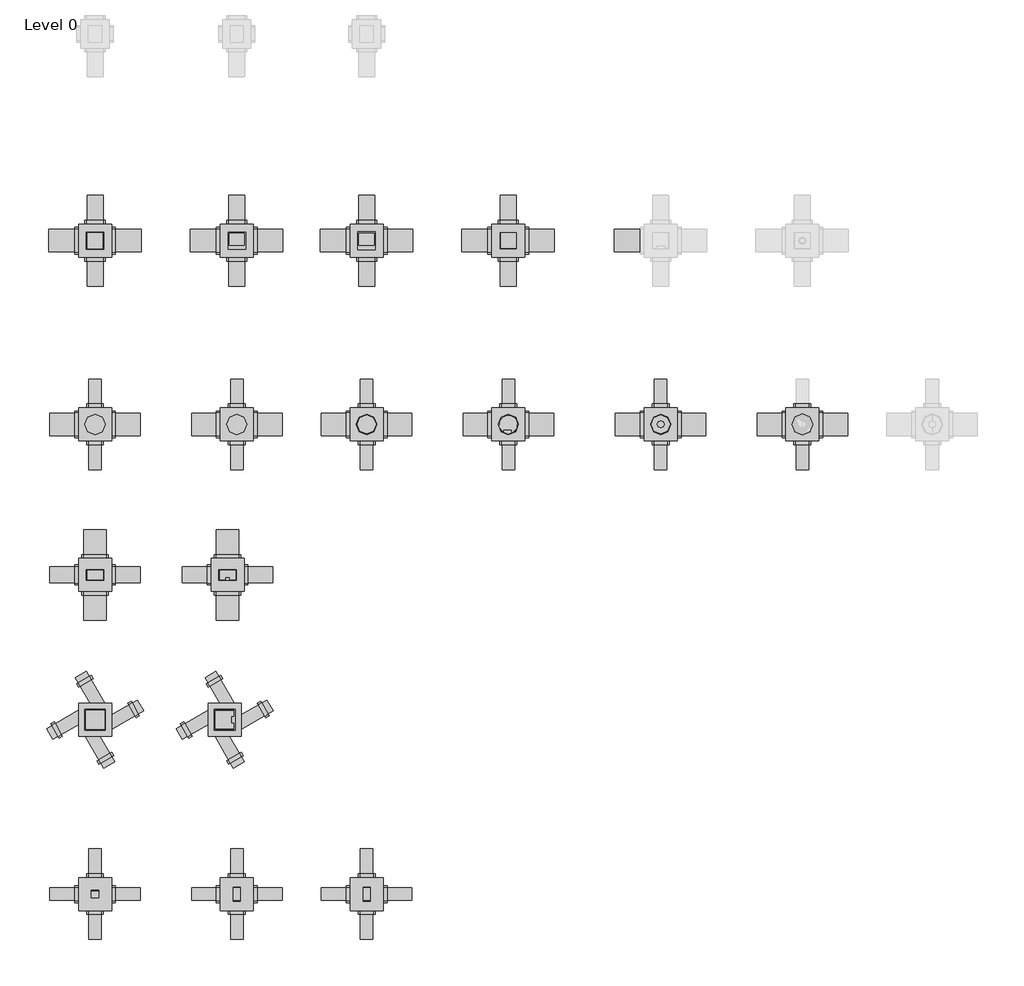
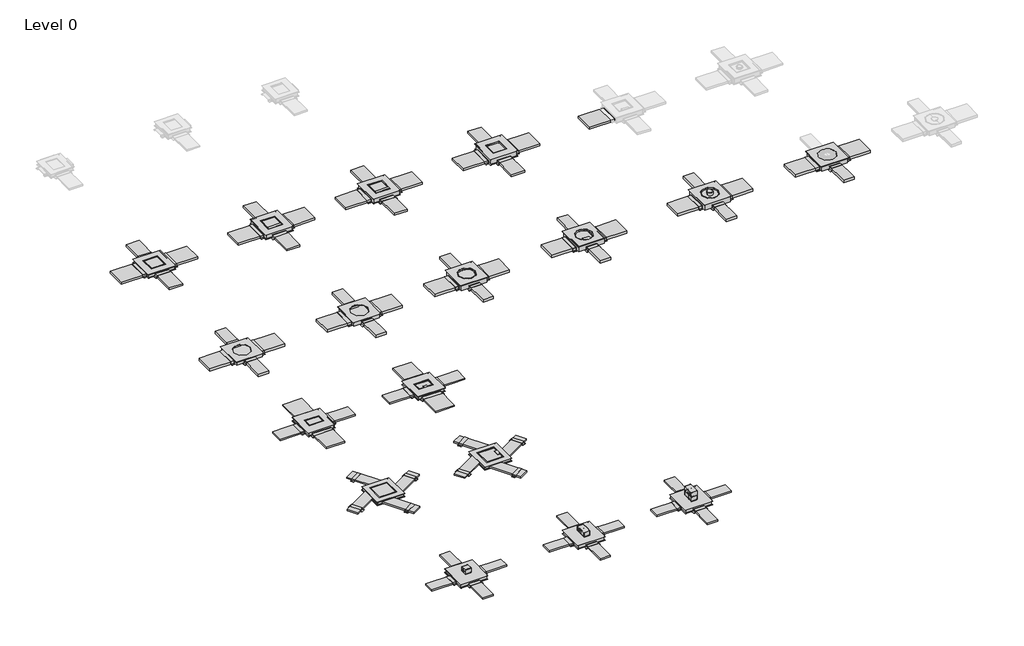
# One storey, part 1 of 2: 68 cable carrier segments, 17 cable carrier fittings, 14 proxies.
"""IFC4 building model written with IfcOpenShell, lengths in millimetres."""

from ifc_helpers import new_model, si_unit, frame, origin, place, context, project, spatial, polyline, outline, extrude, transform, mapped, element, save
from components import electrical_fixtures_d3cc217f, electrical_fixtures_403837cc, electrical_fixtures_8427cab8, electrical_fixtures_bc675c06, color_deep_black_c19cb628, color_deep_black_fa90bbad, color_deep_black_c4cdae59, color_deep_black_142afe5e, color_deep_black_3e0b7094, color_deep_black_f01a6ed9, stainless_steel_cassette_q12_bl_outer_height_28mm_38aa1d54, stainless_steel_cassette_r12_bl_outer_height_28mm_3aa149c4, stainless_steel_cassette_r12_le_outer_height_28mm_2c233eef, stainless_steel_cassette_r12_tm_outer_height_28mm_26a360f3, cable_carrier_fitting_5f74ec3e, cable_carrier_fitting_cb3f23ee, cable_carrier_fitting_f97b21a2, cable_carrier_fitting_74eefb0c, cable_carrier_fitting_8ec82d7f, universal_junction_box_with_bottom_plate_size_3_e0c27931, universal_junction_box_with_bottom_plate_size_3_beba6617, universal_junction_box_with_bottom_plate_size_3_e983a607, universal_junction_box_with_bottom_plate_size_3_fc0b7f47, universal_junction_box_with_bottom_plate_size_3_c41442bd, universal_junction_box_with_bottom_plate_size_3_7e383dc2, universal_junction_box_with_sheet_metal_casing_size_3_1634ce7a

model = new_model("IFC4")

# Units and contexts
model_context = context("Model", 3, world=origin())
ifc_project = project(units=[si_unit("LENGTHUNIT", "METRE", prefix="MILLI")], contexts=[model_context])

# Site, building, storey
site = spatial("IfcSite", under=ifc_project)
building = spatial("IfcBuilding", under=site)
storey = spatial("IfcBuildingStorey", under=building, Name="Level 0", Elevation=0.0)

# Proxies
placement = place(None, origin())
electrical_fixtures_shape = electrical_fixtures_d3cc217f(model_context)
element("IfcBuildingElementProxy", 1, Name="Electrical_Installation_Hager_VE-EE_Pedestal-box-4 : GB pedestal box 4 inst. fields iron gray", ObjectType="Electrical_Installation_Hager_VE-EE_Pedestal-box-4 : GB pedestal box 4 inst. fields iron gray", at=placement, inside=storey, context=model_context, shape_type="MappedRepresentation", body=[
    mapped(electrical_fixtures_shape, transform((-6302.5203768, -11668.1416898, 56.0), x_axis=(1.0, 0.0, 0.0), y_axis=(0.0, 1.0, 0.0), z_axis=(0.0, 0.0, 1.0))),
])
electrical_fixtures_2_shape = electrical_fixtures_403837cc(model_context)
element("IfcBuildingElementProxy", 2, Name="Electrical_Installation_Hager_VE-EE_Pedestal-box-8 : GB pedestal box 8 inst. fields iron gray", ObjectType="Electrical_Installation_Hager_VE-EE_Pedestal-box-8 : GB pedestal box 8 inst. fields iron gray", at=placement, inside=storey, context=model_context, shape_type="MappedRepresentation", body=[
    mapped(electrical_fixtures_2_shape, transform((-4342.5203768, -11668.1416898, 56.0), x_axis=(1.0, 0.0, 0.0), y_axis=(0.0, 1.0, 0.0), z_axis=(0.0, 0.0, 1.0))),
])
electrical_fixtures_3_shape = electrical_fixtures_8427cab8(model_context)
element("IfcBuildingElementProxy", 3, Name="Electrical_Installation_Hager_VE-EE_Service-unit-VQ12-made-of-stainless-steel : Electrical_Installation_Hager_VE-EE_Service-unit-VQ12-made-of-stainless-steel", ObjectType="Electrical_Installation_Hager_VE-EE_Service-unit-VQ12-made-of-stainless-steel : Electrical_Installation_Hager_VE-EE_Service-unit-VQ12-made-of-stainless-steel", at=placement, inside=storey, context=model_context, shape_type="MappedRepresentation", body=[
    mapped(electrical_fixtures_3_shape, transform((-4342.5203768, -1802.7596237, 73.0), x_axis=(1.0, 0.0, 0.0), y_axis=(0.0, 1.0, 0.0), z_axis=(0.0, 0.0, 1.0))),
])
electrical_fixtures_4_shape = electrical_fixtures_bc675c06(model_context)
element("IfcBuildingElementProxy", 4, Name="Electrical_Installation_Hager_VE-EE_Pedestal-box-2 : GB pedestal box 2 inst. fields iron gray", ObjectType="Electrical_Installation_Hager_VE-EE_Pedestal-box-2 : GB pedestal box 2 inst. fields iron gray", at=placement, inside=storey, context=model_context, shape_type="MappedRepresentation", body=[
    mapped(electrical_fixtures_4_shape, transform((-8442.5203768, -11668.1416898, 56.0), x_axis=(1.0, 0.0, 0.0), y_axis=(0.0, 1.0, 0.0), z_axis=(0.0, 0.0, 1.0))),
])
color_deep_black_shape = color_deep_black_c19cb628(model_context)
element("IfcBuildingElementProxy", 5, Name="Electrical_Installation_Hager_VE-EE_Cover-VDQ12 : Color Deep Black", ObjectType="Electrical_Installation_Hager_VE-EE_Cover-VDQ12 : Color Deep Black", at=placement, inside=storey, context=model_context, shape_type="MappedRepresentation", body=[
    mapped(color_deep_black_shape, transform((-8442.5203768, -1802.7596237, 49.0), x_axis=(1.0, 0.0, 0.0), y_axis=(0.0, 1.0, 0.0), z_axis=(0.0, 0.0, 1.0))),
])
color_deep_black_2_shape = color_deep_black_fa90bbad(model_context)
element("IfcBuildingElementProxy", 6, Name="Electrical_Installation_Hager_VE-EE_Service-Unit-VQ12 : Color Deep Black", ObjectType="Electrical_Installation_Hager_VE-EE_Service-Unit-VQ12 : Color Deep Black", at=placement, inside=storey, context=model_context, shape_type="MappedRepresentation", body=[
    mapped(color_deep_black_2_shape, transform((-6302.5203768, -1802.7596237, 66.0), x_axis=(1.0, 0.0, 0.0), y_axis=(0.0, 1.0, 0.0), z_axis=(0.0, 0.0, 1.0))),
])
color_deep_black_3_shape = color_deep_black_c4cdae59(model_context)
element("IfcBuildingElementProxy", 7, Name="Electrical_Installation_Hager_VE-EE_Cover-BDE04 : Color Deep Black", ObjectType="Electrical_Installation_Hager_VE-EE_Cover-BDE04 : Color Deep Black", at=placement, inside=storey, context=model_context, shape_type="MappedRepresentation", body=[
    mapped(color_deep_black_3_shape, transform((-8442.5203768, -6848.9254072, 56.0), x_axis=(1.0, 0.0, 0.0), y_axis=(0.0, 1.0, 0.0), z_axis=(0.0, 0.0, 1.0))),
])
color_deep_black_4_shape = color_deep_black_142afe5e(model_context)
element("IfcBuildingElementProxy", 8, Name="Electrical_Installation_Hager_VE-EE_Cover-KDE04 : Color Deep Black", ObjectType="Electrical_Installation_Hager_VE-EE_Cover-KDE04 : Color Deep Black", at=placement, inside=storey, context=model_context, shape_type="MappedRepresentation", body=[
    mapped(color_deep_black_4_shape, transform((-6442.5203768, -6848.9254072, 56.0), x_axis=(1.0, 0.0, 0.0), y_axis=(0.0, 1.0, 0.0), z_axis=(0.0, 0.0, 1.0))),
])
color_deep_black_5_shape = color_deep_black_3e0b7094(model_context)
element("IfcBuildingElementProxy", 9, Name="Electrical_Installation_Hager_VE-EE_Cover-BDQ08 : Color Deep Black", ObjectType="Electrical_Installation_Hager_VE-EE_Cover-BDQ08 : Color Deep Black", at=placement, inside=storey, context=model_context, shape_type="MappedRepresentation", body=[
    mapped(color_deep_black_5_shape, transform((-8442.5203768, -9035.5969539, 47.0), x_axis=(1.0, 0.0, 0.0), y_axis=(0.0, 1.0, 0.0), z_axis=(0.0, 0.0, 1.0))),
])
color_deep_black_6_shape = color_deep_black_f01a6ed9(model_context)
element("IfcBuildingElementProxy", 10, Name="Electrical_Installation_Hager_VE-EE_Cover-KDQ08 : Color Deep Black", ObjectType="Electrical_Installation_Hager_VE-EE_Cover-KDQ08 : Color Deep Black", at=placement, inside=storey, context=model_context, shape_type="MappedRepresentation", body=[
    mapped(color_deep_black_6_shape, transform((-6485.5203768, -9035.5969539, 39.0), x_axis=(1.0, 0.0, 0.0), y_axis=(0.0, 1.0, 0.0), z_axis=(0.0, 0.0, 1.0))),
])
stainless_steel_cassette_q12_bl_outer_height_28mm_shape = stainless_steel_cassette_q12_bl_outer_height_28mm_38aa1d54(model_context)
element("IfcBuildingElementProxy", 11, Name="Electrical_Installation_Hager_VE-EE_EKQ-Height-adjustable-stainless-steel-cassette-blank-square-for-damp-cleaned-floors : Stainless-steel cassette Q12 BL outer height 28mm", ObjectType="Electrical_Installation_Hager_VE-EE_EKQ-Height-adjustable-stainless-steel-cassette-blank-square-for-damp-cleaned-floors : Stainless-steel cassette Q12 BL outer height 28mm", at=placement, inside=storey, context=model_context, shape_type="MappedRepresentation", body=[
    mapped(stainless_steel_cassette_q12_bl_outer_height_28mm_shape, transform((-2202.5203768, -1802.7596237, 89.0), x_axis=(1.0, 0.0, 0.0), y_axis=(0.0, 1.0, 0.0), z_axis=(0.0, 0.0, 1.0))),
])
stainless_steel_cassette_r12_bl_outer_height_28mm_shape = stainless_steel_cassette_r12_bl_outer_height_28mm_3aa149c4(model_context)
element("IfcBuildingElementProxy", 12, Name="Electrical_Installation_Hager_VE-EE_EKR-Height-adjustable-stainless-steel-cassette-blank-round-for-damp-cleaned-floors : Stainless-steel cassette R12 BL outer height 28mm", ObjectType="Electrical_Installation_Hager_VE-EE_EKR-Height-adjustable-stainless-steel-cassette-blank-round-for-damp-cleaned-floors : Stainless-steel cassette R12 BL outer height 28mm", at=placement, inside=storey, context=model_context, shape_type="MappedRepresentation", body=[
    mapped(stainless_steel_cassette_r12_bl_outer_height_28mm_shape, transform((-4342.5203768, -4575.9376679, 84.0), x_axis=(1.0, 0.0, 0.0), y_axis=(0.0, 1.0, 0.0), z_axis=(0.0, 0.0, 1.0))),
])
stainless_steel_cassette_r12_le_outer_height_28mm_shape = stainless_steel_cassette_r12_le_outer_height_28mm_2c233eef(model_context)
element("IfcBuildingElementProxy", 13, Name="Electrical_Installation_Hager_VE-EE_EKR-Height-adjustable-stainless-steel-cassette-with-square-cable-outlet-for-dry-cleaned-floors : Stainless-steel cassette R12 LE outer height 28mm", ObjectType="Electrical_Installation_Hager_VE-EE_EKR-Height-adjustable-stainless-steel-cassette-with-square-cable-outlet-for-dry-cleaned-floors : Stainless-steel cassette R12 LE outer height 28mm", at=placement, inside=storey, context=model_context, shape_type="MappedRepresentation", body=[
    mapped(stainless_steel_cassette_r12_le_outer_height_28mm_shape, transform((-2202.5203768, -4575.9376679, 84.0), x_axis=(1.0, 0.0, 0.0), y_axis=(0.0, 1.0, 0.0), z_axis=(0.0, 0.0, 1.0))),
])
stainless_steel_cassette_r12_tm_outer_height_28mm_shape = stainless_steel_cassette_r12_tm_outer_height_28mm_26a360f3(model_context)
element("IfcBuildingElementProxy", 14, Name="Electrical_Installation_Hager_VE-EE_EKR-Height-adjustable-stainless-steel-cassette-with-tube-mounting-set-round-for-damp-cleaned-floors : Stainless-steel cassette R12 TM outer height 28mm", ObjectType="Electrical_Installation_Hager_VE-EE_EKR-Height-adjustable-stainless-steel-cassette-with-tube-mounting-set-round-for-damp-cleaned-floors : Stainless-steel cassette R12 TM outer height 28mm", at=placement, inside=storey, context=model_context, shape_type="MappedRepresentation", body=[
    mapped(stainless_steel_cassette_r12_tm_outer_height_28mm_shape, transform((97.4796232, -4575.9376679, 84.0), x_axis=(1.0, 0.0, 0.0), y_axis=(0.0, 1.0, 0.0), z_axis=(0.0, 0.0, 1.0))),
])

# Cable carrier fittings
cable_carrier_fitting_shape = cable_carrier_fitting_5f74ec3e(model_context)
element("IfcCableCarrierFitting", 15, ObjectType="Electrical-Installations_Hager_Universal-Junction-Box-With-Retaining-Tabs-Size-2 : Universal junction box with retaining tabs size 2", at=placement, inside=storey, context=model_context, shape_type="MappedRepresentation", body=[
    mapped(cable_carrier_fitting_shape, transform((-8442.5203768, -11668.1416898, 0.0), x_axis=(1.0, 0.0, 0.0), y_axis=(0.0, 1.0, 0.0), z_axis=(0.0, 0.0, 1.0))),
])
element("IfcCableCarrierFitting", 16, ObjectType="Electrical-Installations_Hager_Universal-Junction-Box-With-Retaining-Tabs-Size-2 : Universal junction box with retaining tabs size 2", at=placement, inside=storey, context=model_context, shape_type="MappedRepresentation", body=[
    mapped(cable_carrier_fitting_shape, transform((-6302.5203768, -11668.1416898, 0.0), x_axis=(1.0, 0.0, 0.0), y_axis=(0.0, 1.0, 0.0), z_axis=(0.0, 0.0, 1.0))),
])
element("IfcCableCarrierFitting", 17, ObjectType="Electrical-Installations_Hager_Universal-Junction-Box-With-Retaining-Tabs-Size-2 : Universal junction box with retaining tabs size 2", at=placement, inside=storey, context=model_context, shape_type="MappedRepresentation", body=[
    mapped(cable_carrier_fitting_shape, transform((-4342.5203768, -11668.1416898, 0.0), x_axis=(1.0, 0.0, 0.0), y_axis=(0.0, 1.0, 0.0), z_axis=(0.0, 0.0, 1.0))),
])
cable_carrier_fitting_2_shape = cable_carrier_fitting_cb3f23ee(model_context)
element("IfcCableCarrierFitting", 18, ObjectType="Electrical-Installations_Hager_Universal-Junction-Box-With-Retaining-Tabs-Size-3 : Universal junction box with retaining tabs size 3", at=placement, inside=storey, context=model_context, shape_type="MappedRepresentation", body=[
    mapped(cable_carrier_fitting_2_shape, transform((-8442.5203768, -4575.9376679, 0.0), x_axis=(1.0, 0.0, 0.0), y_axis=(0.0, 1.0, 0.0), z_axis=(0.0, 0.0, 1.0))),
])
cable_carrier_fitting_3_shape = cable_carrier_fitting_f97b21a2(model_context)
element("IfcCableCarrierFitting", 19, ObjectType="Electrical-Installations_Hager_Universal-Junction-Box-With-Retaining-Tabs-Size-3 : Universal junction box with retaining tabs size 3", at=placement, inside=storey, context=model_context, shape_type="MappedRepresentation", body=[
    mapped(cable_carrier_fitting_3_shape, transform((-6302.5203768, -4575.9376679, 0.0), x_axis=(1.0, 0.0, 0.0), y_axis=(0.0, 1.0, 0.0), z_axis=(0.0, 0.0, 1.0))),
])
cable_carrier_fitting_4_shape = cable_carrier_fitting_74eefb0c(model_context)
element("IfcCableCarrierFitting", 20, ObjectType="Electrical-Installations_Hager_Universal-Junction-Box-With-Retaining-Tabs-Size-3 : Universal junction box with retaining tabs size 3", at=placement, inside=storey, context=model_context, shape_type="MappedRepresentation", body=[
    mapped(cable_carrier_fitting_4_shape, transform((-4342.5203768, -4575.9376679, 0.0), x_axis=(1.0, 0.0, 0.0), y_axis=(0.0, 1.0, 0.0), z_axis=(0.0, 0.0, 1.0))),
])
element("IfcCableCarrierFitting", 21, ObjectType="Electrical-Installations_Hager_Universal-Junction-Box-With-Retaining-Tabs-Size-3 : Universal junction box with retaining tabs size 3", at=placement, inside=storey, context=model_context, shape_type="MappedRepresentation", body=[
    mapped(cable_carrier_fitting_4_shape, transform((-2202.5203768, -4575.9376679, 0.0), x_axis=(1.0, 0.0, 0.0), y_axis=(0.0, 1.0, 0.0), z_axis=(0.0, 0.0, 1.0))),
])
element("IfcCableCarrierFitting", 22, ObjectType="Electrical-Installations_Hager_Universal-Junction-Box-With-Retaining-Tabs-Size-3 : Universal junction box with retaining tabs size 3", at=placement, inside=storey, context=model_context, shape_type="MappedRepresentation", body=[
    mapped(cable_carrier_fitting_4_shape, transform((97.4796232, -4575.9376679, 0.0), x_axis=(1.0, 0.0, 0.0), y_axis=(0.0, 1.0, 0.0), z_axis=(0.0, 0.0, 1.0))),
])
cable_carrier_fitting_5_shape = cable_carrier_fitting_8ec82d7f(model_context)
element("IfcCableCarrierFitting", 23, ObjectType="Electrical-Installations_Hager_Universal-Junction-Box-With-Retaining-Tabs-Size-3 : Universal junction box with retaining tabs size 3", at=placement, inside=storey, context=model_context, shape_type="MappedRepresentation", body=[
    mapped(cable_carrier_fitting_5_shape, transform((2237.4796232, -4575.9376679, 0.0), x_axis=(1.0, 0.0, 0.0), y_axis=(0.0, 1.0, 0.0), z_axis=(0.0, 0.0, 1.0))),
])
universal_junction_box_with_bottom_plate_size_3_shape = universal_junction_box_with_bottom_plate_size_3_e0c27931(model_context)
element("IfcCableCarrierFitting", 24, ObjectType="Electrical-Installations_Hager_Universal-Junction-Box-With-Bottom-Plate-Size-3 : Universal junction box with bottom plate size 3", at=placement, inside=storey, context=model_context, shape_type="MappedRepresentation", body=[
    mapped(universal_junction_box_with_bottom_plate_size_3_shape, transform((-8442.5203768, -1802.7596237, 0.0), x_axis=(1.0, 0.0, 0.0), y_axis=(0.0, 1.0, 0.0), z_axis=(0.0, 0.0, 1.0))),
])
universal_junction_box_with_bottom_plate_size_3_2_shape = universal_junction_box_with_bottom_plate_size_3_beba6617(model_context)
element("IfcCableCarrierFitting", 25, ObjectType="Electrical-Installations_Hager_Universal-Junction-Box-With-Bottom-Plate-Size-3 : Universal junction box with bottom plate size 3", at=placement, inside=storey, context=model_context, shape_type="MappedRepresentation", body=[
    mapped(universal_junction_box_with_bottom_plate_size_3_2_shape, transform((-6302.5203768, -1802.7596237, 0.0), x_axis=(1.0, 0.0, 0.0), y_axis=(0.0, 1.0, 0.0), z_axis=(0.0, 0.0, 1.0))),
])
universal_junction_box_with_bottom_plate_size_3_3_shape = universal_junction_box_with_bottom_plate_size_3_e983a607(model_context)
element("IfcCableCarrierFitting", 26, ObjectType="Electrical-Installations_Hager_Universal-Junction-Box-With-Bottom-Plate-Size-3 : Universal junction box with bottom plate size 3", at=placement, inside=storey, context=model_context, shape_type="MappedRepresentation", body=[
    mapped(universal_junction_box_with_bottom_plate_size_3_3_shape, transform((-4342.5203768, -1802.7596237, 0.0), x_axis=(1.0, 0.0, 0.0), y_axis=(0.0, 1.0, 0.0), z_axis=(0.0, 0.0, 1.0))),
])
universal_junction_box_with_bottom_plate_size_3_4_shape = universal_junction_box_with_bottom_plate_size_3_fc0b7f47(model_context)
element("IfcCableCarrierFitting", 27, ObjectType="Electrical-Installations_Hager_Universal-Junction-Box-With-Bottom-Plate-Size-3 : Universal junction box with bottom plate size 3", at=placement, inside=storey, context=model_context, shape_type="MappedRepresentation", body=[
    mapped(universal_junction_box_with_bottom_plate_size_3_4_shape, transform((-2202.5203768, -1802.7596237, 0.0), x_axis=(1.0, 0.0, 0.0), y_axis=(0.0, 1.0, 0.0), z_axis=(0.0, 0.0, 1.0))),
])
universal_junction_box_with_bottom_plate_size_3_5_shape = universal_junction_box_with_bottom_plate_size_3_c41442bd(model_context)
element("IfcCableCarrierFitting", 28, ObjectType="Electrical-Installations_Hager_Universal-Junction-Box-With-Bottom-Plate-Size-3-Angled : Universal junction box with bottom plate size 3", at=placement, inside=storey, context=model_context, shape_type="MappedRepresentation", body=[
    mapped(universal_junction_box_with_bottom_plate_size_3_5_shape, transform((-8442.5203768, -9035.5969539, 0.0), x_axis=(1.0, 0.0, 0.0), y_axis=(0.0, 1.0, 0.0), z_axis=(0.0, 0.0, 1.0))),
])
universal_junction_box_with_bottom_plate_size_3_6_shape = universal_junction_box_with_bottom_plate_size_3_7e383dc2(model_context)
element("IfcCableCarrierFitting", 29, ObjectType="Electrical-Installations_Hager_Universal-Junction-Box-With-Bottom-Plate-Size-3-Angled : Universal junction box with bottom plate size 3", at=placement, inside=storey, context=model_context, shape_type="MappedRepresentation", body=[
    mapped(universal_junction_box_with_bottom_plate_size_3_6_shape, transform((-6485.5203768, -9035.5969539, 0.0), x_axis=(1.0, 0.0, 0.0), y_axis=(0.0, 1.0, 0.0), z_axis=(0.0, 0.0, 1.0))),
])
universal_junction_box_with_sheet_metal_casing_size_3_shape = universal_junction_box_with_sheet_metal_casing_size_3_1634ce7a(model_context)
element("IfcCableCarrierFitting", 30, ObjectType="Electrical-Installations_Hager_Universal-Junction-Box-With-Sheet-Metal-Casing-Size-3 : Universal junction box with sheet metal casing size 3", at=placement, inside=storey, context=model_context, shape_type="MappedRepresentation", body=[
    mapped(universal_junction_box_with_sheet_metal_casing_size_3_shape, transform((-8442.5203768, -6848.9254072, 0.0), x_axis=(0.0, 1.0, 0.0), y_axis=(-1.0, 0.0, 0.0), z_axis=(0.0, 0.0, 1.0))),
])
element("IfcCableCarrierFitting", 31, ObjectType="Electrical-Installations_Hager_Universal-Junction-Box-With-Sheet-Metal-Casing-Size-3 : Universal junction box with sheet metal casing size 3", at=placement, inside=storey, context=model_context, shape_type="MappedRepresentation", body=[
    mapped(universal_junction_box_with_sheet_metal_casing_size_3_shape, transform((-6442.5203768, -6848.9254072, 0.0), x_axis=(0.0, 1.0, 0.0), y_axis=(-1.0, 0.0, 0.0), z_axis=(0.0, 0.0, 1.0))),
])

# Cable carrier segments
element("IfcCableCarrierSegment", 32, ObjectType="Electrical-Installations_Cable-Trays_Hager_Electraplan-Trunking-2-Compartments", at=placement, inside=storey, context=model_context, shape_type="SweptSolid", body=[
    extrude(outline(polyline([(-8248.6246648, -1972.7596237), (-8248.6246648, -1632.7596237), (-7748.6246648, -1632.7596237), (-7748.6246648, -1972.7596237), (-8248.6246648, -1972.7596237)])), frame((0.0, 0.0, -19.0), z_axis=(0.0, 0.0, 1.0), x_axis=(1.0, 0.0, 0.0)), (0.0, 0.0, 1.0), 38.0),
])
element("IfcCableCarrierSegment", 33, ObjectType="Electrical-Installations_Cable-Trays_Hager_Electraplan-Trunking-2-Compartments", at=placement, inside=storey, context=model_context, shape_type="SweptSolid", body=[
    extrude(outline(polyline([(-8322.5203768, -1617.7596237), (-8562.5203768, -1617.7596237), (-8562.5203768, -1117.7596237), (-8322.5203768, -1117.7596237), (-8322.5203768, -1617.7596237)])), frame((0.0, 0.0, -19.0), z_axis=(0.0, 0.0, 1.0), x_axis=(1.0, 0.0, 0.0)), (0.0, 0.0, 1.0), 38.0),
])
element("IfcCableCarrierSegment", 34, ObjectType="Electrical-Installations_Cable-Trays_Hager_Electraplan-Trunking-2-Compartments", at=placement, inside=storey, context=model_context, shape_type="SweptSolid", body=[
    extrude(outline(polyline([(-8644.5203768, -1632.7596237), (-8644.5203768, -1972.7596237), (-9144.5203768, -1972.7596237), (-9144.5203768, -1632.7596237), (-8644.5203768, -1632.7596237)])), frame((0.0, 0.0, -19.0), z_axis=(0.0, 0.0, 1.0), x_axis=(1.0, 0.0, 0.0)), (0.0, 0.0, 1.0), 38.0),
])
element("IfcCableCarrierSegment", 35, ObjectType="Electrical-Installations_Cable-Trays_Hager_Electraplan-Trunking-2-Compartments", at=placement, inside=storey, context=model_context, shape_type="SweptSolid", body=[
    extrude(outline(polyline([(-8562.5203768, -1990.7478206), (-8322.5203768, -1990.7478206), (-8322.5203768, -2490.7478206), (-8562.5203768, -2490.7478206), (-8562.5203768, -1990.7478206)])), frame((0.0, 0.0, -19.0), z_axis=(0.0, 0.0, 1.0), x_axis=(1.0, 0.0, 0.0)), (0.0, 0.0, 1.0), 38.0),
])
element("IfcCableCarrierSegment", 36, ObjectType="Electrical-Installations_Cable-Trays_Hager_Electraplan-Trunking-2-Compartments", at=placement, inside=storey, context=model_context, shape_type="SweptSolid", body=[
    extrude(outline(polyline([(-6108.6246648, -1972.7596237), (-6108.6246648, -1632.7596237), (-5608.6246648, -1632.7596237), (-5608.6246648, -1972.7596237), (-6108.6246648, -1972.7596237)])), frame((0.0, 0.0, -19.0), z_axis=(0.0, 0.0, 1.0), x_axis=(1.0, 0.0, 0.0)), (0.0, 0.0, 1.0), 38.0),
])
element("IfcCableCarrierSegment", 37, ObjectType="Electrical-Installations_Cable-Trays_Hager_Electraplan-Trunking-2-Compartments", at=placement, inside=storey, context=model_context, shape_type="SweptSolid", body=[
    extrude(outline(polyline([(-6182.5203768, -1617.7596237), (-6422.5203768, -1617.7596237), (-6422.5203768, -1117.7596237), (-6182.5203768, -1117.7596237), (-6182.5203768, -1617.7596237)])), frame((0.0, 0.0, -19.0), z_axis=(0.0, 0.0, 1.0), x_axis=(1.0, 0.0, 0.0)), (0.0, 0.0, 1.0), 38.0),
])
element("IfcCableCarrierSegment", 38, ObjectType="Electrical-Installations_Cable-Trays_Hager_Electraplan-Trunking-2-Compartments", at=placement, inside=storey, context=model_context, shape_type="SweptSolid", body=[
    extrude(outline(polyline([(-6504.5203768, -1632.7596237), (-6504.5203768, -1972.7596237), (-7004.5203768, -1972.7596237), (-7004.5203768, -1632.7596237), (-6504.5203768, -1632.7596237)])), frame((0.0, 0.0, -19.0), z_axis=(0.0, 0.0, 1.0), x_axis=(1.0, 0.0, 0.0)), (0.0, 0.0, 1.0), 38.0),
])
element("IfcCableCarrierSegment", 39, ObjectType="Electrical-Installations_Cable-Trays_Hager_Electraplan-Trunking-2-Compartments", at=placement, inside=storey, context=model_context, shape_type="SweptSolid", body=[
    extrude(outline(polyline([(-6422.5203768, -1990.7478206), (-6182.5203768, -1990.7478206), (-6182.5203768, -2490.7478206), (-6422.5203768, -2490.7478206), (-6422.5203768, -1990.7478206)])), frame((0.0, 0.0, -19.0), z_axis=(0.0, 0.0, 1.0), x_axis=(1.0, 0.0, 0.0)), (0.0, 0.0, 1.0), 38.0),
])
element("IfcCableCarrierSegment", 40, ObjectType="Electrical-Installations_Cable-Trays_Hager_Electraplan-Trunking-2-Compartments", at=placement, inside=storey, context=model_context, shape_type="SweptSolid", body=[
    extrude(outline(polyline([(-4148.6246648, -1972.7596237), (-4148.6246648, -1632.7596237), (-3648.6246648, -1632.7596237), (-3648.6246648, -1972.7596237), (-4148.6246648, -1972.7596237)])), frame((0.0, 0.0, -19.0), z_axis=(0.0, 0.0, 1.0), x_axis=(1.0, 0.0, 0.0)), (0.0, 0.0, 1.0), 38.0),
])
element("IfcCableCarrierSegment", 41, ObjectType="Electrical-Installations_Cable-Trays_Hager_Electraplan-Trunking-2-Compartments", at=placement, inside=storey, context=model_context, shape_type="SweptSolid", body=[
    extrude(outline(polyline([(-4222.5203768, -1617.7596237), (-4462.5203768, -1617.7596237), (-4462.5203768, -1117.7596237), (-4222.5203768, -1117.7596237), (-4222.5203768, -1617.7596237)])), frame((0.0, 0.0, -19.0), z_axis=(0.0, 0.0, 1.0), x_axis=(1.0, 0.0, 0.0)), (0.0, 0.0, 1.0), 38.0),
])
element("IfcCableCarrierSegment", 42, ObjectType="Electrical-Installations_Cable-Trays_Hager_Electraplan-Trunking-2-Compartments", at=placement, inside=storey, context=model_context, shape_type="SweptSolid", body=[
    extrude(outline(polyline([(-4544.5203768, -1632.7596237), (-4544.5203768, -1972.7596237), (-5044.5203768, -1972.7596237), (-5044.5203768, -1632.7596237), (-4544.5203768, -1632.7596237)])), frame((0.0, 0.0, -19.0), z_axis=(0.0, 0.0, 1.0), x_axis=(1.0, 0.0, 0.0)), (0.0, 0.0, 1.0), 38.0),
])
element("IfcCableCarrierSegment", 43, ObjectType="Electrical-Installations_Cable-Trays_Hager_Electraplan-Trunking-2-Compartments", at=placement, inside=storey, context=model_context, shape_type="SweptSolid", body=[
    extrude(outline(polyline([(-4462.5203768, -1990.7478206), (-4222.5203768, -1990.7478206), (-4222.5203768, -2490.7478206), (-4462.5203768, -2490.7478206), (-4462.5203768, -1990.7478206)])), frame((0.0, 0.0, -19.0), z_axis=(0.0, 0.0, 1.0), x_axis=(1.0, 0.0, 0.0)), (0.0, 0.0, 1.0), 38.0),
])
element("IfcCableCarrierSegment", 44, ObjectType="Electrical-Installations_Cable-Trays_Hager_Electraplan-Trunking-2-Compartments", at=placement, inside=storey, context=model_context, shape_type="SweptSolid", body=[
    extrude(outline(polyline([(-2008.6246648, -1972.7596237), (-2008.6246648, -1632.7596237), (-1508.6246648, -1632.7596237), (-1508.6246648, -1972.7596237), (-2008.6246648, -1972.7596237)])), frame((0.0, 0.0, -19.0), z_axis=(0.0, 0.0, 1.0), x_axis=(1.0, 0.0, 0.0)), (0.0, 0.0, 1.0), 38.0),
])
element("IfcCableCarrierSegment", 45, ObjectType="Electrical-Installations_Cable-Trays_Hager_Electraplan-Trunking-2-Compartments", at=placement, inside=storey, context=model_context, shape_type="SweptSolid", body=[
    extrude(outline(polyline([(-2082.5203768, -1617.7596237), (-2322.5203768, -1617.7596237), (-2322.5203768, -1117.7596237), (-2082.5203768, -1117.7596237), (-2082.5203768, -1617.7596237)])), frame((0.0, 0.0, -19.0), z_axis=(0.0, 0.0, 1.0), x_axis=(1.0, 0.0, 0.0)), (0.0, 0.0, 1.0), 38.0),
])
element("IfcCableCarrierSegment", 46, ObjectType="Electrical-Installations_Cable-Trays_Hager_Electraplan-Trunking-2-Compartments", at=placement, inside=storey, context=model_context, shape_type="SweptSolid", body=[
    extrude(outline(polyline([(-2404.5203768, -1632.7596237), (-2404.5203768, -1972.7596237), (-2904.5203768, -1972.7596237), (-2904.5203768, -1632.7596237), (-2404.5203768, -1632.7596237)])), frame((0.0, 0.0, -19.0), z_axis=(0.0, 0.0, 1.0), x_axis=(1.0, 0.0, 0.0)), (0.0, 0.0, 1.0), 38.0),
])
element("IfcCableCarrierSegment", 47, ObjectType="Electrical-Installations_Cable-Trays_Hager_Electraplan-Trunking-2-Compartments", at=placement, inside=storey, context=model_context, shape_type="SweptSolid", body=[
    extrude(outline(polyline([(-2322.5203768, -1990.7478206), (-2082.5203768, -1990.7478206), (-2082.5203768, -2490.7478206), (-2322.5203768, -2490.7478206), (-2322.5203768, -1990.7478206)])), frame((0.0, 0.0, -19.0), z_axis=(0.0, 0.0, 1.0), x_axis=(1.0, 0.0, 0.0)), (0.0, 0.0, 1.0), 38.0),
])
element("IfcCableCarrierSegment", 48, ObjectType="Electrical-Installations_Cable-Trays_Hager_Electraplan-Trunking-2-Compartments", at=placement, inside=storey, context=model_context, shape_type="SweptSolid", body=[
    extrude(outline(polyline([(-104.5203768, -1632.7596237), (-104.5203768, -1972.7596237), (-604.5203768, -1972.7596237), (-604.5203768, -1632.7596237), (-104.5203768, -1632.7596237)])), frame((0.0, 0.0, -19.0), z_axis=(0.0, 0.0, 1.0), x_axis=(1.0, 0.0, 0.0)), (0.0, 0.0, 1.0), 38.0),
])
element("IfcCableCarrierSegment", 49, ObjectType="Electrical-Installations_Cable-Trays_Hager_Electraplan-Trunking-3-Compartments", at=placement, inside=storey, context=model_context, shape_type="SweptSolid", body=[
    extrude(outline(polyline([(-8259.5203768, -4745.9376679), (-8259.5203768, -4405.9376679), (-7759.5203768, -4405.9376679), (-7759.5203768, -4745.9376679), (-8259.5203768, -4745.9376679)])), frame((0.0, 0.0, -24.0), z_axis=(0.0, 0.0, 1.0), x_axis=(1.0, 0.0, 0.0)), (0.0, 0.0, 1.0), 48.0),
])
element("IfcCableCarrierSegment", 50, ObjectType="Electrical-Installations_Cable-Trays_Hager_Electraplan-Trunking-3-Compartments", at=placement, inside=storey, context=model_context, shape_type="SweptSolid", body=[
    extrude(outline(polyline([(-8625.5203768, -4405.9376679), (-8625.5203768, -4745.9376679), (-9125.5203768, -4745.9376679), (-9125.5203768, -4405.9376679), (-8625.5203768, -4405.9376679)])), frame((0.0, 0.0, -24.0), z_axis=(0.0, 0.0, 1.0), x_axis=(1.0, 0.0, 0.0)), (0.0, 0.0, 1.0), 48.0),
])
element("IfcCableCarrierSegment", 51, ObjectType="Electrical-Installations_Cable-Trays_Hager_Electraplan-Trunking-3-Compartments", at=placement, inside=storey, context=model_context, shape_type="SweptSolid", body=[
    extrude(outline(polyline([(-8347.5203768, -4392.9376679), (-8537.5203768, -4392.9376679), (-8537.5203768, -3892.9376679), (-8347.5203768, -3892.9376679), (-8347.5203768, -4392.9376679)])), frame((0.0, 0.0, -24.0), z_axis=(0.0, 0.0, 1.0), x_axis=(1.0, 0.0, 0.0)), (0.0, 0.0, 1.0), 48.0),
])
element("IfcCableCarrierSegment", 52, ObjectType="Electrical-Installations_Cable-Trays_Hager_Electraplan-Trunking-3-Compartments", at=placement, inside=storey, context=model_context, shape_type="SweptSolid", body=[
    extrude(outline(polyline([(-8537.5203768, -4758.9376679), (-8347.5203768, -4758.9376679), (-8347.5203768, -5258.9376679), (-8537.5203768, -5258.9376679), (-8537.5203768, -4758.9376679)])), frame((0.0, 0.0, -24.0), z_axis=(0.0, 0.0, 1.0), x_axis=(1.0, 0.0, 0.0)), (0.0, 0.0, 1.0), 48.0),
])
element("IfcCableCarrierSegment", 53, ObjectType="Electrical-Installations_Cable-Trays_Hager_Electraplan-Trunking-3-Compartments", at=placement, inside=storey, context=model_context, shape_type="SweptSolid", body=[
    extrude(outline(polyline([(-6119.5203768, -4745.9376679), (-6119.5203768, -4405.9376679), (-5619.5203768, -4405.9376679), (-5619.5203768, -4745.9376679), (-6119.5203768, -4745.9376679)])), frame((0.0, 0.0, -24.0), z_axis=(0.0, 0.0, 1.0), x_axis=(1.0, 0.0, 0.0)), (0.0, 0.0, 1.0), 48.0),
])
element("IfcCableCarrierSegment", 54, ObjectType="Electrical-Installations_Cable-Trays_Hager_Electraplan-Trunking-3-Compartments", at=placement, inside=storey, context=model_context, shape_type="SweptSolid", body=[
    extrude(outline(polyline([(-6485.5203768, -4405.9376679), (-6485.5203768, -4745.9376679), (-6985.5203768, -4745.9376679), (-6985.5203768, -4405.9376679), (-6485.5203768, -4405.9376679)])), frame((0.0, 0.0, -24.0), z_axis=(0.0, 0.0, 1.0), x_axis=(1.0, 0.0, 0.0)), (0.0, 0.0, 1.0), 48.0),
])
element("IfcCableCarrierSegment", 55, ObjectType="Electrical-Installations_Cable-Trays_Hager_Electraplan-Trunking-3-Compartments", at=placement, inside=storey, context=model_context, shape_type="SweptSolid", body=[
    extrude(outline(polyline([(-6207.5203768, -4392.9376679), (-6397.5203768, -4392.9376679), (-6397.5203768, -3892.9376679), (-6207.5203768, -3892.9376679), (-6207.5203768, -4392.9376679)])), frame((0.0, 0.0, -24.0), z_axis=(0.0, 0.0, 1.0), x_axis=(1.0, 0.0, 0.0)), (0.0, 0.0, 1.0), 48.0),
])
element("IfcCableCarrierSegment", 56, ObjectType="Electrical-Installations_Cable-Trays_Hager_Electraplan-Trunking-3-Compartments", at=placement, inside=storey, context=model_context, shape_type="SweptSolid", body=[
    extrude(outline(polyline([(-6397.5203768, -4758.9376679), (-6207.5203768, -4758.9376679), (-6207.5203768, -5258.9376679), (-6397.5203768, -5258.9376679), (-6397.5203768, -4758.9376679)])), frame((0.0, 0.0, -24.0), z_axis=(0.0, 0.0, 1.0), x_axis=(1.0, 0.0, 0.0)), (0.0, 0.0, 1.0), 48.0),
])
element("IfcCableCarrierSegment", 57, ObjectType="Electrical-Installations_Cable-Trays_Hager_Electraplan-Trunking-3-Compartments", at=placement, inside=storey, context=model_context, shape_type="SweptSolid", body=[
    extrude(outline(polyline([(-4159.5203768, -4745.9376679), (-4159.5203768, -4405.9376679), (-3659.5203768, -4405.9376679), (-3659.5203768, -4745.9376679), (-4159.5203768, -4745.9376679)])), frame((0.0, 0.0, -24.0), z_axis=(0.0, 0.0, 1.0), x_axis=(1.0, 0.0, 0.0)), (0.0, 0.0, 1.0), 48.0),
])
element("IfcCableCarrierSegment", 58, ObjectType="Electrical-Installations_Cable-Trays_Hager_Electraplan-Trunking-3-Compartments", at=placement, inside=storey, context=model_context, shape_type="SweptSolid", body=[
    extrude(outline(polyline([(-4525.5203768, -4405.9376679), (-4525.5203768, -4745.9376679), (-5025.5203768, -4745.9376679), (-5025.5203768, -4405.9376679), (-4525.5203768, -4405.9376679)])), frame((0.0, 0.0, -24.0), z_axis=(0.0, 0.0, 1.0), x_axis=(1.0, 0.0, 0.0)), (0.0, 0.0, 1.0), 48.0),
])
element("IfcCableCarrierSegment", 59, ObjectType="Electrical-Installations_Cable-Trays_Hager_Electraplan-Trunking-3-Compartments", at=placement, inside=storey, context=model_context, shape_type="SweptSolid", body=[
    extrude(outline(polyline([(-4247.5203768, -4392.9376679), (-4437.5203768, -4392.9376679), (-4437.5203768, -3892.9376679), (-4247.5203768, -3892.9376679), (-4247.5203768, -4392.9376679)])), frame((0.0, 0.0, -24.0), z_axis=(0.0, 0.0, 1.0), x_axis=(1.0, 0.0, 0.0)), (0.0, 0.0, 1.0), 48.0),
])
element("IfcCableCarrierSegment", 60, ObjectType="Electrical-Installations_Cable-Trays_Hager_Electraplan-Trunking-3-Compartments", at=placement, inside=storey, context=model_context, shape_type="SweptSolid", body=[
    extrude(outline(polyline([(-4437.5203768, -4758.9376679), (-4247.5203768, -4758.9376679), (-4247.5203768, -5258.9376679), (-4437.5203768, -5258.9376679), (-4437.5203768, -4758.9376679)])), frame((0.0, 0.0, -24.0), z_axis=(0.0, 0.0, 1.0), x_axis=(1.0, 0.0, 0.0)), (0.0, 0.0, 1.0), 48.0),
])
element("IfcCableCarrierSegment", 61, ObjectType="Electrical-Installations_Cable-Trays_Hager_Electraplan-Trunking-3-Compartments", at=placement, inside=storey, context=model_context, shape_type="SweptSolid", body=[
    extrude(outline(polyline([(-2019.5203768, -4745.9376679), (-2019.5203768, -4405.9376679), (-1519.5203768, -4405.9376679), (-1519.5203768, -4745.9376679), (-2019.5203768, -4745.9376679)])), frame((0.0, 0.0, -24.0), z_axis=(0.0, 0.0, 1.0), x_axis=(1.0, 0.0, 0.0)), (0.0, 0.0, 1.0), 48.0),
])
element("IfcCableCarrierSegment", 62, ObjectType="Electrical-Installations_Cable-Trays_Hager_Electraplan-Trunking-3-Compartments", at=placement, inside=storey, context=model_context, shape_type="SweptSolid", body=[
    extrude(outline(polyline([(-2385.5203768, -4405.9376679), (-2385.5203768, -4745.9376679), (-2885.5203768, -4745.9376679), (-2885.5203768, -4405.9376679), (-2385.5203768, -4405.9376679)])), frame((0.0, 0.0, -24.0), z_axis=(0.0, 0.0, 1.0), x_axis=(1.0, 0.0, 0.0)), (0.0, 0.0, 1.0), 48.0),
])
element("IfcCableCarrierSegment", 63, ObjectType="Electrical-Installations_Cable-Trays_Hager_Electraplan-Trunking-3-Compartments", at=placement, inside=storey, context=model_context, shape_type="SweptSolid", body=[
    extrude(outline(polyline([(-2107.5203768, -4392.9376679), (-2297.5203768, -4392.9376679), (-2297.5203768, -3892.9376679), (-2107.5203768, -3892.9376679), (-2107.5203768, -4392.9376679)])), frame((0.0, 0.0, -24.0), z_axis=(0.0, 0.0, 1.0), x_axis=(1.0, 0.0, 0.0)), (0.0, 0.0, 1.0), 48.0),
])
element("IfcCableCarrierSegment", 64, ObjectType="Electrical-Installations_Cable-Trays_Hager_Electraplan-Trunking-3-Compartments", at=placement, inside=storey, context=model_context, shape_type="SweptSolid", body=[
    extrude(outline(polyline([(-2297.5203768, -4758.9376679), (-2107.5203768, -4758.9376679), (-2107.5203768, -5258.9376679), (-2297.5203768, -5258.9376679), (-2297.5203768, -4758.9376679)])), frame((0.0, 0.0, -24.0), z_axis=(0.0, 0.0, 1.0), x_axis=(1.0, 0.0, 0.0)), (0.0, 0.0, 1.0), 48.0),
])
element("IfcCableCarrierSegment", 65, ObjectType="Electrical-Installations_Cable-Trays_Hager_Electraplan-Trunking-3-Compartments", at=placement, inside=storey, context=model_context, shape_type="SweptSolid", body=[
    extrude(outline(polyline([(280.4796232, -4745.9376679), (280.4796232, -4405.9376679), (780.4796232, -4405.9376679), (780.4796232, -4745.9376679), (280.4796232, -4745.9376679)])), frame((0.0, 0.0, -24.0), z_axis=(0.0, 0.0, 1.0), x_axis=(1.0, 0.0, 0.0)), (0.0, 0.0, 1.0), 48.0),
])
element("IfcCableCarrierSegment", 66, ObjectType="Electrical-Installations_Cable-Trays_Hager_Electraplan-Trunking-3-Compartments", at=placement, inside=storey, context=model_context, shape_type="SweptSolid", body=[
    extrude(outline(polyline([(-85.5203768, -4405.9376679), (-85.5203768, -4745.9376679), (-585.5203768, -4745.9376679), (-585.5203768, -4405.9376679), (-85.5203768, -4405.9376679)])), frame((0.0, 0.0, -24.0), z_axis=(0.0, 0.0, 1.0), x_axis=(1.0, 0.0, 0.0)), (0.0, 0.0, 1.0), 48.0),
])
element("IfcCableCarrierSegment", 67, ObjectType="Electrical-Installations_Cable-Trays_Hager_Electraplan-Trunking-3-Compartments", at=placement, inside=storey, context=model_context, shape_type="SweptSolid", body=[
    extrude(outline(polyline([(192.4796232, -4392.9376679), (2.4796232, -4392.9376679), (2.4796232, -3892.9376679), (192.4796232, -3892.9376679), (192.4796232, -4392.9376679)])), frame((0.0, 0.0, -24.0), z_axis=(0.0, 0.0, 1.0), x_axis=(1.0, 0.0, 0.0)), (0.0, 0.0, 1.0), 48.0),
])
element("IfcCableCarrierSegment", 68, ObjectType="Electrical-Installations_Cable-Trays_Hager_Electraplan-Trunking-3-Compartments", at=placement, inside=storey, context=model_context, shape_type="SweptSolid", body=[
    extrude(outline(polyline([(2.4796232, -4758.9376679), (192.4796232, -4758.9376679), (192.4796232, -5258.9376679), (2.4796232, -5258.9376679), (2.4796232, -4758.9376679)])), frame((0.0, 0.0, -24.0), z_axis=(0.0, 0.0, 1.0), x_axis=(1.0, 0.0, 0.0)), (0.0, 0.0, 1.0), 48.0),
])
element("IfcCableCarrierSegment", 69, ObjectType="Electrical-Installations_Cable-Trays_Hager_Electraplan-Trunking-3-Compartments", at=placement, inside=storey, context=model_context, shape_type="SweptSolid", body=[
    extrude(outline(polyline([(2420.4796232, -4745.9376679), (2420.4796232, -4405.9376679), (2920.4796232, -4405.9376679), (2920.4796232, -4745.9376679), (2420.4796232, -4745.9376679)])), frame((0.0, 0.0, -24.0), z_axis=(0.0, 0.0, 1.0), x_axis=(1.0, 0.0, 0.0)), (0.0, 0.0, 1.0), 48.0),
])
element("IfcCableCarrierSegment", 70, ObjectType="Electrical-Installations_Cable-Trays_Hager_Electraplan-Trunking-3-Compartments", at=placement, inside=storey, context=model_context, shape_type="SweptSolid", body=[
    extrude(outline(polyline([(2054.4796232, -4405.9376679), (2054.4796232, -4745.9376679), (1554.4796232, -4745.9376679), (1554.4796232, -4405.9376679), (2054.4796232, -4405.9376679)])), frame((0.0, 0.0, -24.0), z_axis=(0.0, 0.0, 1.0), x_axis=(1.0, 0.0, 0.0)), (0.0, 0.0, 1.0), 48.0),
])
element("IfcCableCarrierSegment", 71, ObjectType="Electrical-Installations_Cable-Trays_Hager_Electraplan-Trunking-3-Compartments", at=placement, inside=storey, context=model_context, shape_type="SweptSolid", body=[
    extrude(outline(polyline([(2142.4796232, -4758.9376679), (2332.4796232, -4758.9376679), (2332.4796232, -5258.9376679), (2142.4796232, -5258.9376679), (2142.4796232, -4758.9376679)])), frame((0.0, 0.0, -24.0), z_axis=(0.0, 0.0, 1.0), x_axis=(1.0, 0.0, 0.0)), (0.0, 0.0, 1.0), 48.0),
])
element("IfcCableCarrierSegment", 72, ObjectType="Electrical-Installations_Cable-Trays_Hager_Electraplan-Trunking-3-Compartments", at=placement, inside=storey, context=model_context, shape_type="SweptSolid", body=[
    extrude(outline(polyline([(-8259.5203768, -6968.9254072), (-8259.5203768, -6728.9254072), (-7759.5203768, -6728.9254072), (-7759.5203768, -6968.9254072), (-8259.5203768, -6968.9254072)])), frame((0.0, 0.0, -14.0), z_axis=(0.0, 0.0, 1.0), x_axis=(1.0, 0.0, 0.0)), (0.0, 0.0, 1.0), 28.0),
])
element("IfcCableCarrierSegment", 73, ObjectType="Electrical-Installations_Cable-Trays_Hager_Electraplan-Trunking-3-Compartments", at=placement, inside=storey, context=model_context, shape_type="SweptSolid", body=[
    extrude(outline(polyline([(-8625.5203768, -6728.9254072), (-8625.5203768, -6968.9254072), (-9125.5203768, -6968.9254072), (-9125.5203768, -6728.9254072), (-8625.5203768, -6728.9254072)])), frame((0.0, 0.0, -14.0), z_axis=(0.0, 0.0, 1.0), x_axis=(1.0, 0.0, 0.0)), (0.0, 0.0, 1.0), 28.0),
])
element("IfcCableCarrierSegment", 74, ObjectType="Electrical-Installations_Cable-Trays_Hager_Electraplan-Trunking-3-Compartments", at=placement, inside=storey, context=model_context, shape_type="SweptSolid", body=[
    extrude(outline(polyline([(-8272.5203768, -6665.9254072), (-8612.5203768, -6665.9254072), (-8612.5203768, -6165.9254072), (-8272.5203768, -6165.9254072), (-8272.5203768, -6665.9254072)])), frame((0.0, 0.0, -14.0), z_axis=(0.0, 0.0, 1.0), x_axis=(1.0, 0.0, 0.0)), (0.0, 0.0, 1.0), 28.0),
])
element("IfcCableCarrierSegment", 75, ObjectType="Electrical-Installations_Cable-Trays_Hager_Electraplan-Trunking-3-Compartments", at=placement, inside=storey, context=model_context, shape_type="SweptSolid", body=[
    extrude(outline(polyline([(-8612.5203768, -7031.9254072), (-8272.5203768, -7031.9254072), (-8272.5203768, -7531.9254072), (-8612.5203768, -7531.9254072), (-8612.5203768, -7031.9254072)])), frame((0.0, 0.0, -14.0), z_axis=(0.0, 0.0, 1.0), x_axis=(1.0, 0.0, 0.0)), (0.0, 0.0, 1.0), 28.0),
])
element("IfcCableCarrierSegment", 76, ObjectType="Electrical-Installations_Cable-Trays_Hager_Electraplan-Trunking-3-Compartments", at=placement, inside=storey, context=model_context, shape_type="SweptSolid", body=[
    extrude(outline(polyline([(-6259.5203768, -6968.9254072), (-6259.5203768, -6728.9254072), (-5759.5203768, -6728.9254072), (-5759.5203768, -6968.9254072), (-6259.5203768, -6968.9254072)])), frame((0.0, 0.0, -14.0), z_axis=(0.0, 0.0, 1.0), x_axis=(1.0, 0.0, 0.0)), (0.0, 0.0, 1.0), 28.0),
])
element("IfcCableCarrierSegment", 77, ObjectType="Electrical-Installations_Cable-Trays_Hager_Electraplan-Trunking-3-Compartments", at=placement, inside=storey, context=model_context, shape_type="SweptSolid", body=[
    extrude(outline(polyline([(-6625.5203768, -6728.9254072), (-6625.5203768, -6968.9254072), (-7125.5203768, -6968.9254072), (-7125.5203768, -6728.9254072), (-6625.5203768, -6728.9254072)])), frame((0.0, 0.0, -14.0), z_axis=(0.0, 0.0, 1.0), x_axis=(1.0, 0.0, 0.0)), (0.0, 0.0, 1.0), 28.0),
])
element("IfcCableCarrierSegment", 78, ObjectType="Electrical-Installations_Cable-Trays_Hager_Electraplan-Trunking-3-Compartments", at=placement, inside=storey, context=model_context, shape_type="SweptSolid", body=[
    extrude(outline(polyline([(-6272.5203768, -6665.9254072), (-6612.5203768, -6665.9254072), (-6612.5203768, -6165.9254072), (-6272.5203768, -6165.9254072), (-6272.5203768, -6665.9254072)])), frame((0.0, 0.0, -14.0), z_axis=(0.0, 0.0, 1.0), x_axis=(1.0, 0.0, 0.0)), (0.0, 0.0, 1.0), 28.0),
])
element("IfcCableCarrierSegment", 79, ObjectType="Electrical-Installations_Cable-Trays_Hager_Electraplan-Trunking-3-Compartments", at=placement, inside=storey, context=model_context, shape_type="SweptSolid", body=[
    extrude(outline(polyline([(-6612.5203768, -7031.9254072), (-6272.5203768, -7031.9254072), (-6272.5203768, -7531.9254072), (-6612.5203768, -7531.9254072), (-6612.5203768, -7031.9254072)])), frame((0.0, 0.0, -14.0), z_axis=(0.0, 0.0, 1.0), x_axis=(1.0, 0.0, 0.0)), (0.0, 0.0, 1.0), 28.0),
])
element("IfcCableCarrierSegment", 80, ObjectType="Electrical-Installations_Cable-Trays_Hager_Electraplan-Trunking-3-Compartments", at=placement, inside=storey, context=model_context, shape_type="SweptSolid", body=[
    extrude(outline(polyline([(-8274.7479634, -8822.5969539), (-8439.2927901, -8917.5969539), (-8739.2927901, -8397.9817116), (-8574.7479634, -8302.9817116), (-8274.7479634, -8822.5969539)])), frame((0.0, 0.0, -14.0), z_axis=(0.0, 0.0, 1.0), x_axis=(1.0, 0.0, 0.0)), (0.0, 0.0, 1.0), 28.0),
])
element("IfcCableCarrierSegment", 81, ObjectType="Electrical-Installations_Cable-Trays_Hager_Electraplan-Trunking-3-Compartments", at=placement, inside=storey, context=model_context, shape_type="SweptSolid", body=[
    extrude(outline(polyline([(-8229.5203768, -9203.3693673), (-8324.5203768, -9038.8245405), (-7804.9051345, -8738.8245405), (-7709.9051345, -8903.3693673), (-8229.5203768, -9203.3693673)])), frame((0.0, 0.0, -14.0), z_axis=(0.0, 0.0, 1.0), x_axis=(1.0, 0.0, 0.0)), (0.0, 0.0, 1.0), 28.0),
])
element("IfcCableCarrierSegment", 82, ObjectType="Electrical-Installations_Cable-Trays_Hager_Electraplan-Trunking-3-Compartments", at=placement, inside=storey, context=model_context, shape_type="SweptSolid", body=[
    extrude(outline(polyline([(-8610.2927901, -9248.5969539), (-8445.7479634, -9153.5969539), (-8145.7479634, -9673.2121962), (-8310.2927901, -9768.2121962), (-8610.2927901, -9248.5969539)])), frame((0.0, 0.0, -14.0), z_axis=(0.0, 0.0, 1.0), x_axis=(1.0, 0.0, 0.0)), (0.0, 0.0, 1.0), 28.0),
])
element("IfcCableCarrierSegment", 83, ObjectType="Electrical-Installations_Cable-Trays_Hager_Electraplan-Trunking-3-Compartments", at=placement, inside=storey, context=model_context, shape_type="SweptSolid", body=[
    extrude(outline(polyline([(-8655.5203768, -8867.8245405), (-8560.5203768, -9032.3693673), (-9080.135619, -9332.3693673), (-9175.135619, -9167.8245405), (-8655.5203768, -8867.8245405)])), frame((0.0, 0.0, -14.0), z_axis=(0.0, 0.0, 1.0), x_axis=(1.0, 0.0, 0.0)), (0.0, 0.0, 1.0), 28.0),
])
element("IfcCableCarrierSegment", 84, ObjectType="Electrical-Installations_Cable-Trays_Hager_Electraplan-Trunking-3-Compartments", at=placement, inside=storey, context=model_context, shape_type="SweptSolid", body=[
    extrude(outline(polyline([(-6272.5203768, -9203.3693673), (-6367.5203768, -9038.8245405), (-5847.9051345, -8738.8245405), (-5752.9051345, -8903.3693673), (-6272.5203768, -9203.3693673)])), frame((0.0, 0.0, -14.0), z_axis=(0.0, 0.0, 1.0), x_axis=(1.0, 0.0, 0.0)), (0.0, 0.0, 1.0), 28.0),
])
element("IfcCableCarrierSegment", 85, ObjectType="Electrical-Installations_Cable-Trays_Hager_Electraplan-Trunking-3-Compartments", at=placement, inside=storey, context=model_context, shape_type="SweptSolid", body=[
    extrude(outline(polyline([(-6653.2927901, -9248.5969539), (-6488.7479634, -9153.5969539), (-6188.7479634, -9673.2121962), (-6353.2927901, -9768.2121962), (-6653.2927901, -9248.5969539)])), frame((0.0, 0.0, -14.0), z_axis=(0.0, 0.0, 1.0), x_axis=(1.0, 0.0, 0.0)), (0.0, 0.0, 1.0), 28.0),
])
element("IfcCableCarrierSegment", 86, ObjectType="Electrical-Installations_Cable-Trays_Hager_Electraplan-Trunking-3-Compartments", at=placement, inside=storey, context=model_context, shape_type="SweptSolid", body=[
    extrude(outline(polyline([(-6317.7479634, -8822.5969539), (-6482.2927901, -8917.5969539), (-6782.2927901, -8397.9817116), (-6617.7479634, -8302.9817116), (-6317.7479634, -8822.5969539)])), frame((0.0, 0.0, -14.0), z_axis=(0.0, 0.0, 1.0), x_axis=(1.0, 0.0, 0.0)), (0.0, 0.0, 1.0), 28.0),
])
element("IfcCableCarrierSegment", 87, ObjectType="Electrical-Installations_Cable-Trays_Hager_Electraplan-Trunking-3-Compartments", at=placement, inside=storey, context=model_context, shape_type="SweptSolid", body=[
    extrude(outline(polyline([(-6698.5203768, -8867.8245405), (-6603.5203768, -9032.3693673), (-7123.135619, -9332.3693673), (-7218.135619, -9167.8245405), (-6698.5203768, -8867.8245405)])), frame((0.0, 0.0, -14.0), z_axis=(0.0, 0.0, 1.0), x_axis=(1.0, 0.0, 0.0)), (0.0, 0.0, 1.0), 28.0),
])
element("IfcCableCarrierSegment", 88, ObjectType="Electrical-Installations_Cable-Trays_Hager_Electraplan-Trunking-3-Compartments", at=placement, inside=storey, context=model_context, shape_type="SweptSolid", body=[
    extrude(outline(polyline([(-8259.5203768, -11763.1416898), (-8259.5203768, -11573.1416898), (-7759.5203768, -11573.1416898), (-7759.5203768, -11763.1416898), (-8259.5203768, -11763.1416898)])), frame((0.0, 0.0, -14.0), z_axis=(0.0, 0.0, 1.0), x_axis=(1.0, 0.0, 0.0)), (0.0, 0.0, 1.0), 28.0),
])
element("IfcCableCarrierSegment", 89, ObjectType="Electrical-Installations_Cable-Trays_Hager_Electraplan-Trunking-3-Compartments", at=placement, inside=storey, context=model_context, shape_type="SweptSolid", body=[
    extrude(outline(polyline([(-8347.5203768, -11485.1416898), (-8537.5203768, -11485.1416898), (-8537.5203768, -10985.1416898), (-8347.5203768, -10985.1416898), (-8347.5203768, -11485.1416898)])), frame((0.0, 0.0, -14.0), z_axis=(0.0, 0.0, 1.0), x_axis=(1.0, 0.0, 0.0)), (0.0, 0.0, 1.0), 28.0),
])
element("IfcCableCarrierSegment", 90, ObjectType="Electrical-Installations_Cable-Trays_Hager_Electraplan-Trunking-3-Compartments", at=placement, inside=storey, context=model_context, shape_type="SweptSolid", body=[
    extrude(outline(polyline([(-8625.5203768, -11573.1416898), (-8625.5203768, -11763.1416898), (-9125.5203768, -11763.1416898), (-9125.5203768, -11573.1416898), (-8625.5203768, -11573.1416898)])), frame((0.0, 0.0, -14.0), z_axis=(0.0, 0.0, 1.0), x_axis=(1.0, 0.0, 0.0)), (0.0, 0.0, 1.0), 28.0),
])
element("IfcCableCarrierSegment", 91, ObjectType="Electrical-Installations_Cable-Trays_Hager_Electraplan-Trunking-3-Compartments", at=placement, inside=storey, context=model_context, shape_type="SweptSolid", body=[
    extrude(outline(polyline([(-8537.5203768, -11851.1416898), (-8347.5203768, -11851.1416898), (-8347.5203768, -12351.1416898), (-8537.5203768, -12351.1416898), (-8537.5203768, -11851.1416898)])), frame((0.0, 0.0, -14.0), z_axis=(0.0, 0.0, 1.0), x_axis=(1.0, 0.0, 0.0)), (0.0, 0.0, 1.0), 28.0),
])
element("IfcCableCarrierSegment", 92, ObjectType="Electrical-Installations_Cable-Trays_Hager_Electraplan-Trunking-3-Compartments", at=placement, inside=storey, context=model_context, shape_type="SweptSolid", body=[
    extrude(outline(polyline([(-6119.5203768, -11763.1416898), (-6119.5203768, -11573.1416898), (-5619.5203768, -11573.1416898), (-5619.5203768, -11763.1416898), (-6119.5203768, -11763.1416898)])), frame((0.0, 0.0, -14.0), z_axis=(0.0, 0.0, 1.0), x_axis=(1.0, 0.0, 0.0)), (0.0, 0.0, 1.0), 28.0),
])
element("IfcCableCarrierSegment", 93, ObjectType="Electrical-Installations_Cable-Trays_Hager_Electraplan-Trunking-3-Compartments", at=placement, inside=storey, context=model_context, shape_type="SweptSolid", body=[
    extrude(outline(polyline([(-6207.5203768, -11485.1416898), (-6397.5203768, -11485.1416898), (-6397.5203768, -10985.1416898), (-6207.5203768, -10985.1416898), (-6207.5203768, -11485.1416898)])), frame((0.0, 0.0, -14.0), z_axis=(0.0, 0.0, 1.0), x_axis=(1.0, 0.0, 0.0)), (0.0, 0.0, 1.0), 28.0),
])
element("IfcCableCarrierSegment", 94, ObjectType="Electrical-Installations_Cable-Trays_Hager_Electraplan-Trunking-3-Compartments", at=placement, inside=storey, context=model_context, shape_type="SweptSolid", body=[
    extrude(outline(polyline([(-6485.5203768, -11573.1416898), (-6485.5203768, -11763.1416898), (-6985.5203768, -11763.1416898), (-6985.5203768, -11573.1416898), (-6485.5203768, -11573.1416898)])), frame((0.0, 0.0, -14.0), z_axis=(0.0, 0.0, 1.0), x_axis=(1.0, 0.0, 0.0)), (0.0, 0.0, 1.0), 28.0),
])
element("IfcCableCarrierSegment", 95, ObjectType="Electrical-Installations_Cable-Trays_Hager_Electraplan-Trunking-3-Compartments", at=placement, inside=storey, context=model_context, shape_type="SweptSolid", body=[
    extrude(outline(polyline([(-6397.5203768, -11851.1416898), (-6207.5203768, -11851.1416898), (-6207.5203768, -12351.1416898), (-6397.5203768, -12351.1416898), (-6397.5203768, -11851.1416898)])), frame((0.0, 0.0, -14.0), z_axis=(0.0, 0.0, 1.0), x_axis=(1.0, 0.0, 0.0)), (0.0, 0.0, 1.0), 28.0),
])
element("IfcCableCarrierSegment", 96, ObjectType="Electrical-Installations_Cable-Trays_Hager_Electraplan-Trunking-3-Compartments", at=placement, inside=storey, context=model_context, shape_type="SweptSolid", body=[
    extrude(outline(polyline([(-4159.5203768, -11763.1416898), (-4159.5203768, -11573.1416898), (-3659.5203768, -11573.1416898), (-3659.5203768, -11763.1416898), (-4159.5203768, -11763.1416898)])), frame((0.0, 0.0, -14.0), z_axis=(0.0, 0.0, 1.0), x_axis=(1.0, 0.0, 0.0)), (0.0, 0.0, 1.0), 28.0),
])
element("IfcCableCarrierSegment", 97, ObjectType="Electrical-Installations_Cable-Trays_Hager_Electraplan-Trunking-3-Compartments", at=placement, inside=storey, context=model_context, shape_type="SweptSolid", body=[
    extrude(outline(polyline([(-4247.5203768, -11485.1416898), (-4437.5203768, -11485.1416898), (-4437.5203768, -10985.1416898), (-4247.5203768, -10985.1416898), (-4247.5203768, -11485.1416898)])), frame((0.0, 0.0, -14.0), z_axis=(0.0, 0.0, 1.0), x_axis=(1.0, 0.0, 0.0)), (0.0, 0.0, 1.0), 28.0),
])
element("IfcCableCarrierSegment", 98, ObjectType="Electrical-Installations_Cable-Trays_Hager_Electraplan-Trunking-3-Compartments", at=placement, inside=storey, context=model_context, shape_type="SweptSolid", body=[
    extrude(outline(polyline([(-4525.5203768, -11573.1416898), (-4525.5203768, -11763.1416898), (-5025.5203768, -11763.1416898), (-5025.5203768, -11573.1416898), (-4525.5203768, -11573.1416898)])), frame((0.0, 0.0, -14.0), z_axis=(0.0, 0.0, 1.0), x_axis=(1.0, 0.0, 0.0)), (0.0, 0.0, 1.0), 28.0),
])
element("IfcCableCarrierSegment", 99, ObjectType="Electrical-Installations_Cable-Trays_Hager_Electraplan-Trunking-3-Compartments", at=placement, inside=storey, context=model_context, shape_type="SweptSolid", body=[
    extrude(outline(polyline([(-4437.5203768, -11851.1416898), (-4247.5203768, -11851.1416898), (-4247.5203768, -12351.1416898), (-4437.5203768, -12351.1416898), (-4437.5203768, -11851.1416898)])), frame((0.0, 0.0, -14.0), z_axis=(0.0, 0.0, 1.0), x_axis=(1.0, 0.0, 0.0)), (0.0, 0.0, 1.0), 28.0),
])

save(model, "model.ifc")
